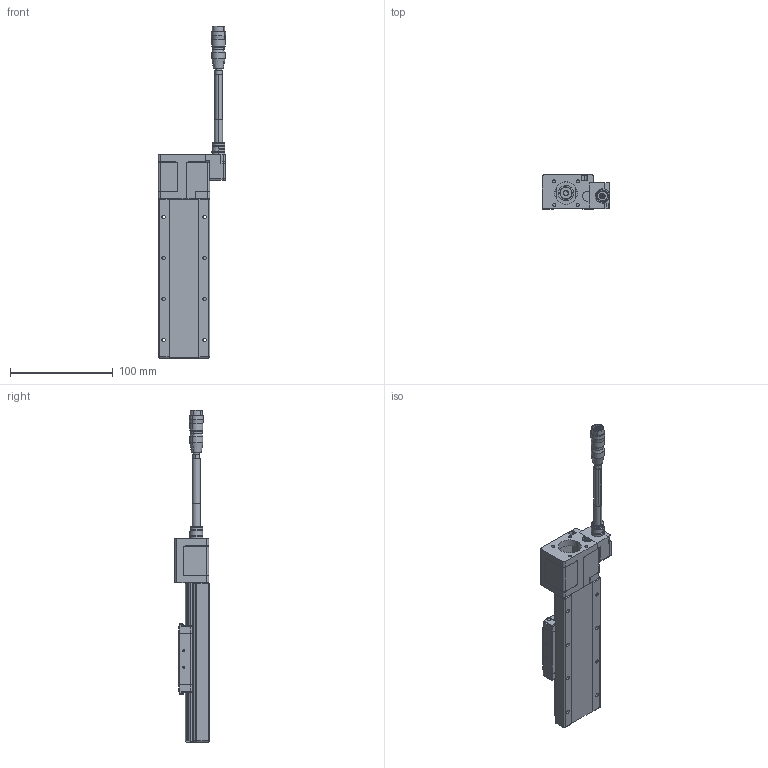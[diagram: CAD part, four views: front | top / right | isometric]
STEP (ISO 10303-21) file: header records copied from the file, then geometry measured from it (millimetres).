
FILE_DESCRIPTION (( 'STEP AP203' ), '1' );
FILE_NAME ('CXN5075-S2?N(42框無馬達).', '2024-01-05T02:21:45', ( '' ), ( '' ), 'SwSTEP 2.0', 'SolidWorks 2019', '' );
FILE_SCHEMA (( 'CONFIG_CONTROL_DESIGN' ));
Products named in the file (4): Group1^CXN5075-S2?N(42框無馬達)_defeature_GMT; Group2^CXN5075-S2?N(42框無馬達)_defeature_GMT; CXN5075-S2?N(42框無馬達); HR10A-10J-12P_帶線示意
Assembly tree (3 placements, depth 2):
  CXN5075-S2?N(42框無馬達)
    Group1^CXN5075-S2?N(42框無馬達)_defeature_GMT
    Group2^CXN5075-S2?N(42框無馬達)_defeature_GMT
    HR10A-10J-12P_帶線示意
Bounding box: 65.49 x 33.5 x 323.5 mm (x, y, z)
Volume: 34823.3 mm3; surface area: 83238.7 mm2
Topology: 4 solids, 9 shells, 5490 faces, 14147 edges, 8687 vertices
Faces by surface type: plane 2551, bspline 1343, cylinder 1127, torus 184, sphere 160, cone 125
Entity records: 183445 total; most frequent: CARTESIAN_POINT 61502, ORIENTED_EDGE 27772, DIRECTION 20854, EDGE_CURVE 13886, VERTEX_POINT 8654, VECTOR 7306, LINE 7306, AXIS2_PLACEMENT_3D 6774
